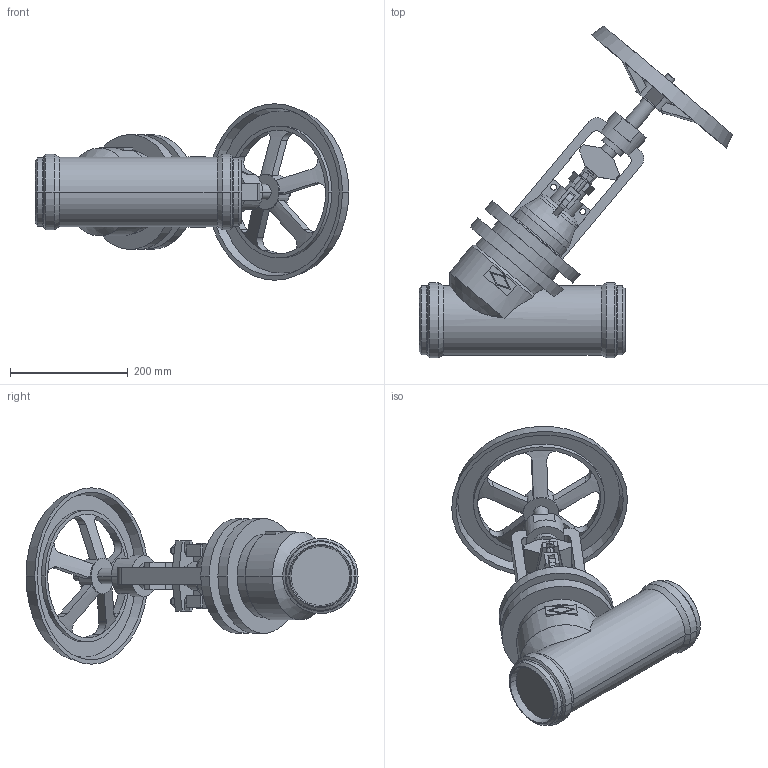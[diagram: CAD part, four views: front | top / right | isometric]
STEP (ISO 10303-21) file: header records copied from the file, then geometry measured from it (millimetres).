
FILE_DESCRIPTION(('OneSpaceDesigner STEP Export'),'2;1');
FILE_NAME('c000004365.stp','2010-05-11T 8:14:16',(''),(''),'OneSpace Designer STEP processor for AP214 (Solid Model)','OneSpace Modeling 15.50B 03-Nov-2007 (C) CoCreate Software GmbH','');
FILE_SCHEMA(('AUTOMOTIVE_DESIGN { 1 0 10303 214 1 1 1 1 }'));
Length unit declared in the file: millimetre
Products named in the file (1): 1
Bounding box: 533.32 x 564.34 x 300 mm (x, y, z)
Volume: 8059490.3 mm3; surface area: 556380.3 mm2
Topology: 1 solids, 1 shells, 297 faces, 774 edges, 498 vertices
Faces by surface type: plane 146, cylinder 89, cone 40, torus 22
Entity records: 11675 total; most frequent: CARTESIAN_POINT 2413, ORIENTED_EDGE 1548, DIRECTION 1273, EDGE_CURVE 774, VERTEX_POINT 498, AXIS2_PLACEMENT_3D 432, VECTOR 409, LINE 409
